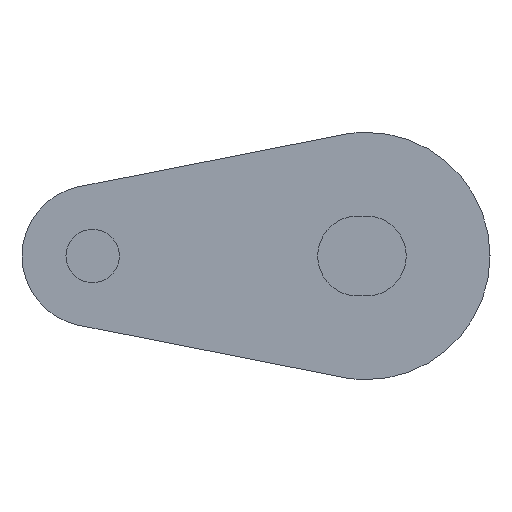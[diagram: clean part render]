
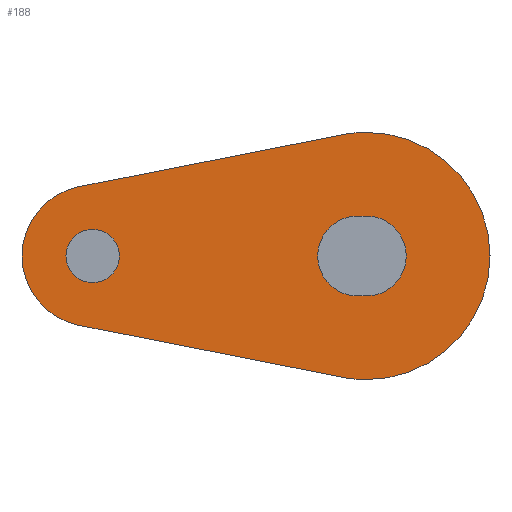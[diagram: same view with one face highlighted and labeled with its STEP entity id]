
A CAD part, left-side view. The second image highlights one B-rep face of the part: STEP entity #188.
In plain terms, the highlighted planar face has unit normal (-1, 0, 0).
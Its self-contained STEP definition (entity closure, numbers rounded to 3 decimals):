
#5 = ORIENTED_EDGE ( 'NONE', *, *, #290, .T. ) ;
#6 = ORIENTED_EDGE ( 'NONE', *, *, #329, .T. ) ;
#7 = ORIENTED_EDGE ( 'NONE', *, *, #356, .T. ) ;
#83 = ORIENTED_EDGE ( 'NONE', *, *, #277, .F. ) ;
#94 = ORIENTED_EDGE ( 'NONE', *, *, #358, .F. ) ;
#99 = CIRCLE ( 'NONE', #269, 2.26 ) ;
#104 = ORIENTED_EDGE ( 'NONE', *, *, #325, .T. ) ;
#110 = ORIENTED_EDGE ( 'NONE', *, *, #307, .T. ) ;
#126 = ORIENTED_EDGE ( 'NONE', *, *, #388, .T. ) ;
#138 = ORIENTED_EDGE ( 'NONE', *, *, #315, .F. ) ;
#154 = ORIENTED_EDGE ( 'NONE', *, *, #381, .F. ) ;
#157 = ORIENTED_EDGE ( 'NONE', *, *, #377, .F. ) ;
#167 = ORIENTED_EDGE ( 'NONE', *, *, #258, .F. ) ;
#188 = ADVANCED_FACE ( 'NONE', ( #981, #1005, #1009 ), #621, .T. ) ;
#215 = VECTOR ( 'NONE', #747, 1000. ) ;
#258 = EDGE_CURVE ( 'NONE', #612, #636, #696, .T. ) ;
#261 = AXIS2_PLACEMENT_3D ( 'NONE', #489, #479, #477 ) ;
#269 = AXIS2_PLACEMENT_3D ( 'NONE', #732, #730, #729 ) ;
#270 = AXIS2_PLACEMENT_3D ( 'NONE', #865, #863, #862 ) ;
#277 = EDGE_CURVE ( 'NONE', #614, #577, #685, .T. ) ;
#290 = EDGE_CURVE ( 'NONE', #634, #635, #671, .T. ) ;
#294 = AXIS2_PLACEMENT_3D ( 'NONE', #620, #582, #546 ) ;
#303 = AXIS2_PLACEMENT_3D ( 'NONE', #893, #846, #845 ) ;
#307 = EDGE_CURVE ( 'NONE', #550, #634, #667, .T. ) ;
#315 = EDGE_CURVE ( 'NONE', #636, #608, #670, .T. ) ;
#323 = AXIS2_PLACEMENT_3D ( 'NONE', #884, #874, #873 ) ;
#325 = EDGE_CURVE ( 'NONE', #602, #654, #917, .T. ) ;
#329 = EDGE_CURVE ( 'NONE', #601, #550, #99, .T. ) ;
#331 = AXIS2_PLACEMENT_3D ( 'NONE', #708, #890, #889 ) ;
#356 = EDGE_CURVE ( 'NONE', #635, #601, #1055, .T. ) ;
#358 = EDGE_CURVE ( 'NONE', #608, #614, #1054, .T. ) ;
#377 = EDGE_CURVE ( 'NONE', #577, #619, #395, .T. ) ;
#381 = EDGE_CURVE ( 'NONE', #619, #612, #399, .T. ) ;
#387 = AXIS2_PLACEMENT_3D ( 'NONE', #864, #855, #852 ) ;
#388 = EDGE_CURVE ( 'NONE', #654, #602, #402, .T. ) ;
#392 = AXIS2_PLACEMENT_3D ( 'NONE', #746, #734, #733 ) ;
#395 = CIRCLE ( 'NONE', #323, 7. ) ;
#399 = CIRCLE ( 'NONE', #270, 7. ) ;
#402 = CIRCLE ( 'NONE', #387, 1.51 ) ;
#477 = DIRECTION ( 'NONE',  ( 0., 0., -1. ) ) ;
#479 = DIRECTION ( 'NONE',  ( 1., 0., 0. ) ) ;
#489 = CARTESIAN_POINT ( 'NONE',  ( -307.5, 0., 0. ) ) ;
#546 = DIRECTION ( 'NONE',  ( 0., 0., -1. ) ) ;
#550 = VERTEX_POINT ( 'NONE', #825 ) ;
#577 = VERTEX_POINT ( 'NONE', #812 ) ;
#582 = DIRECTION ( 'NONE',  ( -1., 0., 0. ) ) ;
#601 = VERTEX_POINT ( 'NONE', #808 ) ;
#602 = VERTEX_POINT ( 'NONE', #807 ) ;
#608 = VERTEX_POINT ( 'NONE', #804 ) ;
#612 = VERTEX_POINT ( 'NONE', #802 ) ;
#614 = VERTEX_POINT ( 'NONE', #801 ) ;
#619 = VERTEX_POINT ( 'NONE', #791 ) ;
#620 = CARTESIAN_POINT ( 'NONE',  ( -307.5, 15.5, 0. ) ) ;
#621 = PLANE ( 'NONE',  #294 ) ;
#634 = VERTEX_POINT ( 'NONE', #788 ) ;
#635 = VERTEX_POINT ( 'NONE', #787 ) ;
#636 = VERTEX_POINT ( 'NONE', #786 ) ;
#654 = VERTEX_POINT ( 'NONE', #782 ) ;
#663 = VECTOR ( 'NONE', #757, 1000. ) ;
#667 = LINE ( 'NONE', #798, #663 ) ;
#670 = LINE ( 'NONE', #758, #215 ) ;
#671 = CIRCLE ( 'NONE', #303, 2.26 ) ;
#684 = VECTOR ( 'NONE', #908, 1000. ) ;
#685 = LINE ( 'NONE', #907, #684 ) ;
#696 = CIRCLE ( 'NONE', #261, 7. ) ;
#699 = DIRECTION ( 'NONE',  ( 0., -1., 0. ) ) ;
#700 = CARTESIAN_POINT ( 'NONE',  ( -307.5, 0.5, 2.26 ) ) ;
#708 = CARTESIAN_POINT ( 'NONE',  ( -307.5, 15.5, 0. ) ) ;
#729 = DIRECTION ( 'NONE',  ( 0., 0., -1. ) ) ;
#730 = DIRECTION ( 'NONE',  ( 1., 0., 0. ) ) ;
#732 = CARTESIAN_POINT ( 'NONE',  ( -307.5, 0., 0. ) ) ;
#733 = DIRECTION ( 'NONE',  ( 0., 0., -1. ) ) ;
#734 = DIRECTION ( 'NONE',  ( 1., 0., 0. ) ) ;
#746 = CARTESIAN_POINT ( 'NONE',  ( -307.5, 15.5, 0. ) ) ;
#747 = DIRECTION ( 'NONE',  ( 0., 0.981, 0.194 ) ) ;
#757 = DIRECTION ( 'NONE',  ( 0., 1., 0. ) ) ;
#758 = CARTESIAN_POINT ( 'NONE',  ( -307.5, 1.355, -6.868 ) ) ;
#782 = CARTESIAN_POINT ( 'NONE',  ( -307.5, 15.5, 1.51 ) ) ;
#786 = CARTESIAN_POINT ( 'NONE',  ( -307.5, 1.355, -6.868 ) ) ;
#787 = CARTESIAN_POINT ( 'NONE',  ( -307.5, 0.5, 2.26 ) ) ;
#788 = CARTESIAN_POINT ( 'NONE',  ( -307.5, 0.5, -2.26 ) ) ;
#791 = CARTESIAN_POINT ( 'NONE',  ( -307.5, 0., 7. ) ) ;
#798 = CARTESIAN_POINT ( 'NONE',  ( -307.5, 0.5, -2.26 ) ) ;
#801 = CARTESIAN_POINT ( 'NONE',  ( -307.5, 16.274, 3.924 ) ) ;
#802 = CARTESIAN_POINT ( 'NONE',  ( -307.5, 0., -7. ) ) ;
#804 = CARTESIAN_POINT ( 'NONE',  ( -307.5, 16.274, -3.924 ) ) ;
#807 = CARTESIAN_POINT ( 'NONE',  ( -307.5, 15.5, -1.51 ) ) ;
#808 = CARTESIAN_POINT ( 'NONE',  ( -307.5, 0., 2.26 ) ) ;
#812 = CARTESIAN_POINT ( 'NONE',  ( -307.5, 1.355, 6.868 ) ) ;
#825 = CARTESIAN_POINT ( 'NONE',  ( -307.5, 0., -2.26 ) ) ;
#845 = DIRECTION ( 'NONE',  ( 0., 0., -1. ) ) ;
#846 = DIRECTION ( 'NONE',  ( 1., 0., 0. ) ) ;
#852 = DIRECTION ( 'NONE',  ( 0., 0., -1. ) ) ;
#855 = DIRECTION ( 'NONE',  ( 1., 0., 0. ) ) ;
#862 = DIRECTION ( 'NONE',  ( 0., 0., -1. ) ) ;
#863 = DIRECTION ( 'NONE',  ( 1., 0., 0. ) ) ;
#864 = CARTESIAN_POINT ( 'NONE',  ( -307.5, 15.5, 0. ) ) ;
#865 = CARTESIAN_POINT ( 'NONE',  ( -307.5, 0., 0. ) ) ;
#873 = DIRECTION ( 'NONE',  ( 0., 0., -1. ) ) ;
#874 = DIRECTION ( 'NONE',  ( 1., 0., 0. ) ) ;
#884 = CARTESIAN_POINT ( 'NONE',  ( -307.5, 0., 0. ) ) ;
#889 = DIRECTION ( 'NONE',  ( 0., 0., -1. ) ) ;
#890 = DIRECTION ( 'NONE',  ( 1., 0., 0. ) ) ;
#893 = CARTESIAN_POINT ( 'NONE',  ( -307.5, 0.5, 0. ) ) ;
#907 = CARTESIAN_POINT ( 'NONE',  ( -307.5, 16.274, 3.924 ) ) ;
#908 = DIRECTION ( 'NONE',  ( 0., -0.981, 0.194 ) ) ;
#917 = CIRCLE ( 'NONE', #392, 1.51 ) ;
#981 = FACE_BOUND ( 'NONE', #1022, .T. ) ;
#983 = EDGE_LOOP ( 'NONE', ( #94, #138, #167, #154, #157, #83 ) ) ;
#1005 = FACE_BOUND ( 'NONE', #1035, .T. ) ;
#1009 = FACE_OUTER_BOUND ( 'NONE', #983, .T. ) ;
#1022 = EDGE_LOOP ( 'NONE', ( #5, #7, #6, #110 ) ) ;
#1035 = EDGE_LOOP ( 'NONE', ( #104, #126 ) ) ;
#1053 = VECTOR ( 'NONE', #699, 1000. ) ;
#1054 = CIRCLE ( 'NONE', #331, 4. ) ;
#1055 = LINE ( 'NONE', #700, #1053 ) ;
